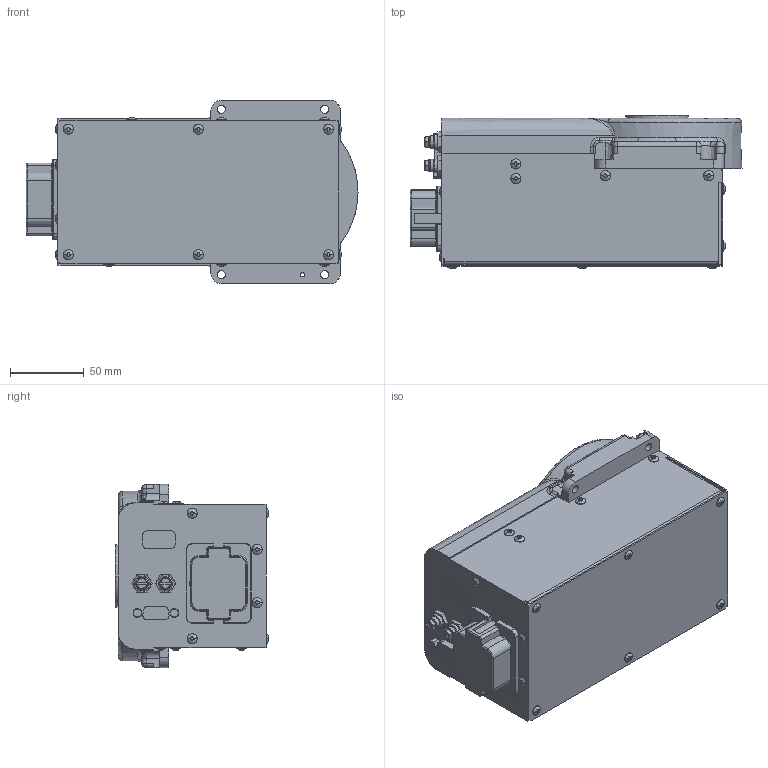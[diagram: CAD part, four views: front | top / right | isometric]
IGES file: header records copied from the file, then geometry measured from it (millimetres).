
Start section:  PTC IGES file: base_axis.igs
Global section: file name: base_axis.igs; native system: Creo Parametric by Parametric Technology Corporation; preprocessor: 2014000; author: Miyoshi_Nozomi; organization: Unknown; date: 20170421.130709; units: millimetre
Bounding box: 224.65 x 103.8 x 124 mm (x, y, z)
Volume: 1950029.5 mm3; surface area: 107544 mm2
Topology: 1 solids, 1 shells, 886 faces, 2323 edges, 1474 vertices
Faces by surface type: bspline 504, revolution 382
